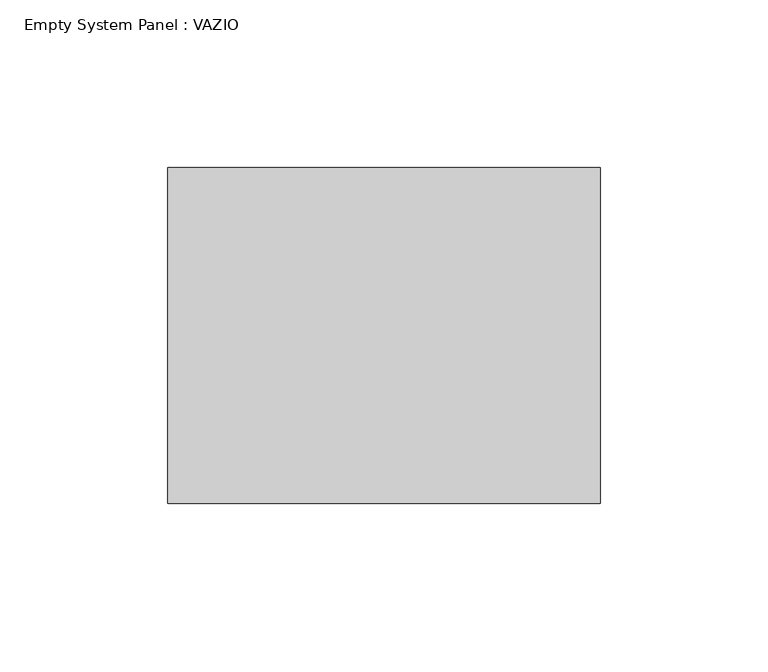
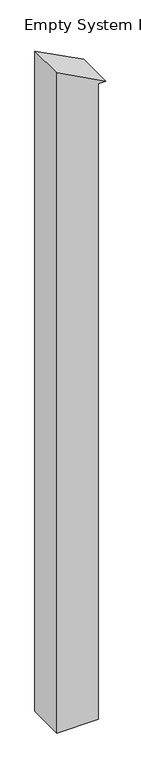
"""IFC4 building model written with IfcOpenShell, lengths in millimetres: plate geometry, Empty System Panel : VAZIO."""

from ifc_helpers import new_model, si_unit, point, frame, frame_2d, origin, place, context, project, spatial, polyline, circle_curve, trimmed, segment, composite_curve, outline, extrude, source, transform, mapped, element, save


def empty_system_panel_vazio_706881e9(model_context):
    return source(origin(), model_context, "Body", "SweptSolid", [
        extrude(outline(composite_curve([segment(polyline([(0.0, -64.3902439), (0.0, 44.3902439), (1769.302634, 44.3902439), (1769.302634, 64.3902439)]), True, "CONTINUOUS"), segment(trimmed(circle_curve(frame_2d((2889.8290938, 571.6564989)), 1229.9994311), [point((1769.302634, 64.3902439))], [point((1837.0503223, -64.3902439))], True, "CARTESIAN"), True, "CONTINUOUS"), segment(polyline([(1837.0503223, -64.3902439), (0.0, -64.3902439)]), True, "CONTINUOUS")], self_intersect=False)), frame((0.0, -50.0, 0.0), z_axis=(0.0, 1.0, 0.0), x_axis=(0.0, 0.0, 1.0)), (0.0, 0.0, 1.0), 100.0),
    ])


if __name__ == "__main__":
    model = new_model("IFC4")
    model_context = context("Model", 3, world=origin())
    ifc_project = project(units=[si_unit("LENGTHUNIT", "METRE", prefix="MILLI")], contexts=[model_context])
    site = spatial("IfcSite", under=ifc_project)
    building = spatial("IfcBuilding", under=site)
    placement = place(None, origin())
    empty_system_panel_vazio_shape = empty_system_panel_vazio_706881e9(model_context)
    element("IfcPlate", 1, ObjectType="Empty System Panel : VAZIO", at=placement, inside=building, context=model_context, shape_type="MappedRepresentation", body=[
        mapped(empty_system_panel_vazio_shape, transform((0.0, 0.0, 0.0), x_axis=(1.0, 0.0, 0.0), y_axis=(0.0, 1.0, 0.0), z_axis=(0.0, 0.0, 1.0))),
    ])
    save(model, "model.ifc")
